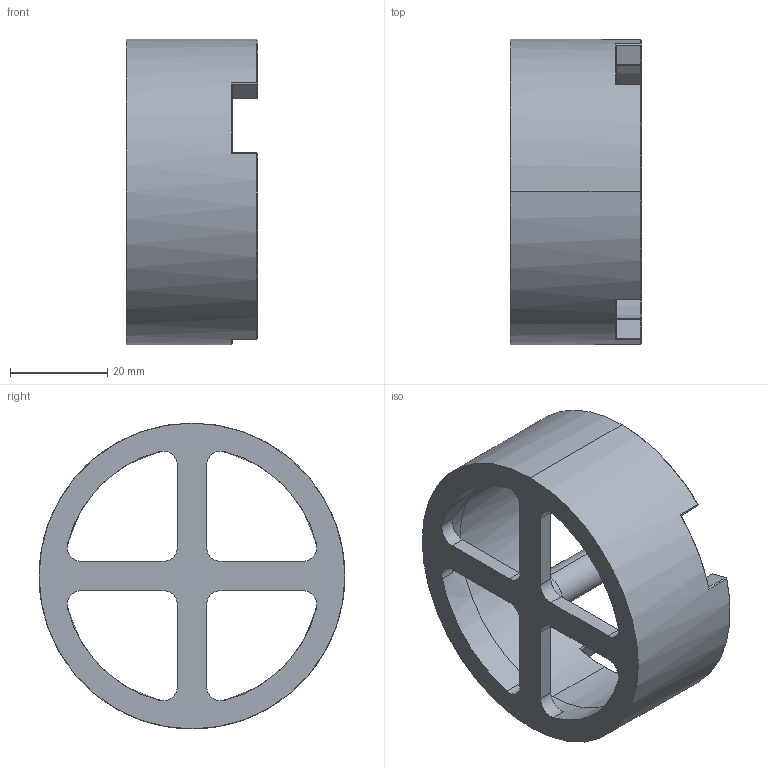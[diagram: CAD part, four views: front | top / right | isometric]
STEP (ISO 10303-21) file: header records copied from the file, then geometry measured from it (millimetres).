
FILE_DESCRIPTION (( 'STEP AP203' ), '1' );
FILE_NAME ('RI50齊嫌聆彸菁釱.STEP', '2025-02-24T08:29:09', ( '' ), ( '' ), 'SwSTEP 2.0', 'SolidWorks 2022', '' );
FILE_SCHEMA (( 'CONFIG_CONTROL_DESIGN' ));
Length unit declared in the file: millimetre
Products named in the file (1): RI50霍尔测试底座
Bounding box: 27 x 63 x 63 mm (x, y, z)
Volume: 24579.7 mm3; surface area: 13691.2 mm2
Topology: 1 solids, 1 shells, 111 faces, 291 edges, 181 vertices
Faces by surface type: plane 50, cylinder 39, cone 22
Entity records: 3490 total; most frequent: CARTESIAN_POINT 641, DIRECTION 602, ORIENTED_EDGE 570, EDGE_CURVE 285, AXIS2_PLACEMENT_3D 226, VERTEX_POINT 181, VECTOR 150, LINE 150
